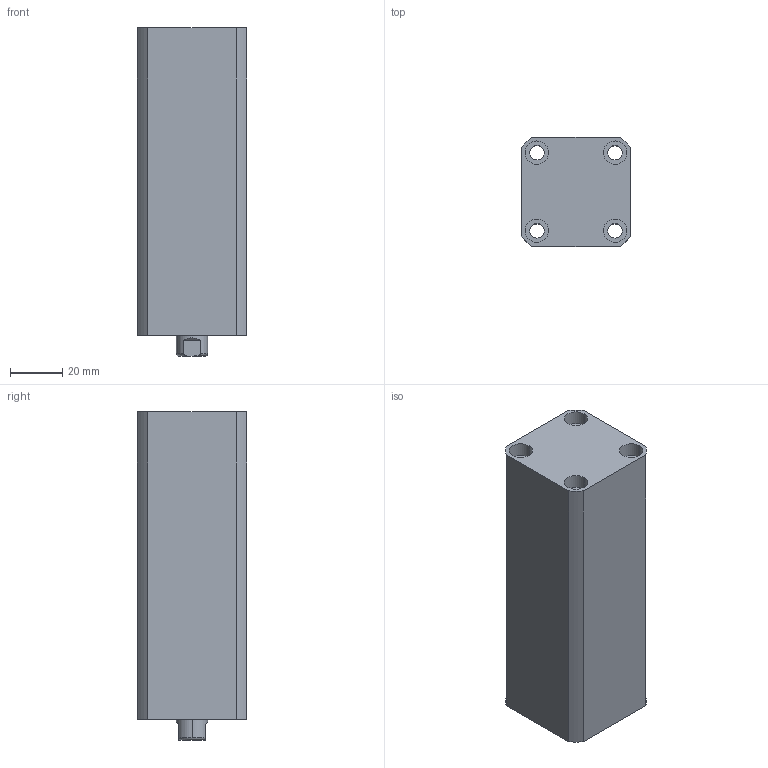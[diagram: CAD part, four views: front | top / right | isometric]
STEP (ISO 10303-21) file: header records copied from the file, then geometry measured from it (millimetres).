
FILE_DESCRIPTION (( 'STEP AP214' ), '1' );
FILE_NAME ('chtb-sd20x75n_asm.STEP', '2018-04-26T12:23:17', ( 'Windows' ), ( 'Microsoft' ), 'SwSTEP 2.0', 'SolidWorks 2015', '' );
FILE_SCHEMA (( 'AUTOMOTIVE_DESIGN' ));
Length unit declared in the file: millimetre
Products named in the file (4): QG; CHTB-SD20X75NHSG; CHTB-SD20X75NBT; chtb-sd20x75n_asm
Assembly tree (3 placements, depth 2):
  chtb-sd20x75n_asm
    CHTB-SD20X75NBT
    CHTB-SD20X75NHSG
    QG
Bounding box: 42 x 42 x 126 mm (x, y, z)
Volume: 173452.3 mm3; surface area: 49372.6 mm2
Topology: 3 solids, 3 shells, 192 faces, 499 edges, 330 vertices
Faces by surface type: cylinder 102, plane 36, torus 25, bspline 19, cone 10
Entity records: 10524 total; most frequent: CARTESIAN_POINT 5851, ORIENTED_EDGE 986, DIRECTION 903, EDGE_CURVE 493, AXIS2_PLACEMENT_3D 385, VERTEX_POINT 330, EDGE_LOOP 229, CIRCLE 206
